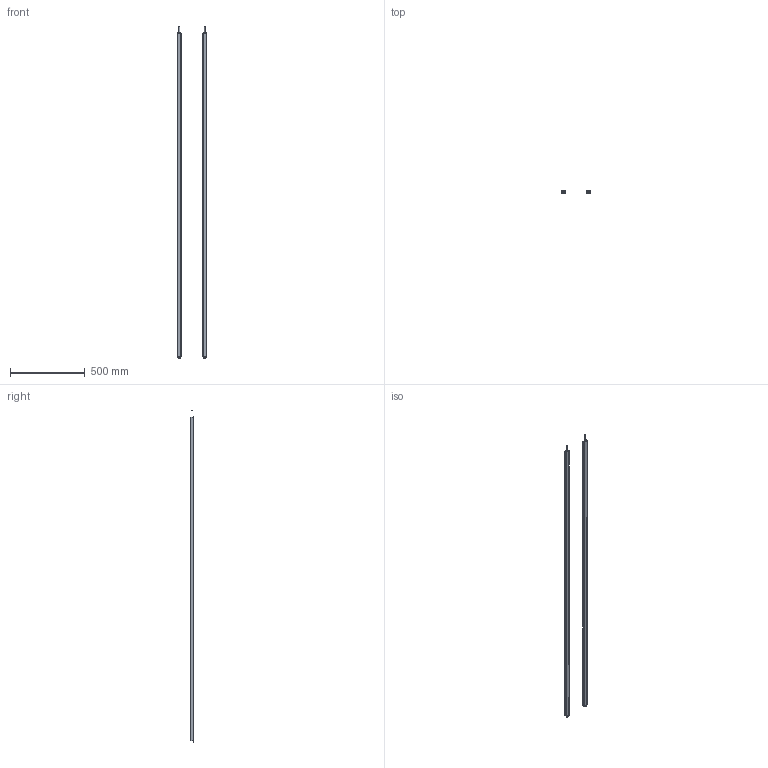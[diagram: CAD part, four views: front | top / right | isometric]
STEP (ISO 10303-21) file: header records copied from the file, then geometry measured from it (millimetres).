
FILE_DESCRIPTION(/* description */ (''),/* implementation_level */ '2;1');
FILE_NAME(/* name */ '5440（16X30ZW).stp',/* time_stamp */ '2023-10-23T11:07:24+08:00',/* author */ (''),/* organization */ (''),/* preprocessor_version */ 'ST-DEVELOPER v16.7',/* originating_system */ 'SIEMENS PLM Software NX 12.0',/* authorisation */ '');
FILE_SCHEMA (('AP203_CONFIGURATION_CONTROLLED_3D_DESIGN_OF_MECHANICAL_PARTS_AND_ASSEMBLIES_MIM_LF { 1 0 10303 403 2 1 2}'));
Length unit declared in the file: millimetre
Products named in the file (1): 4840（16X30ZW__stp
Bounding box: 200 x 16 x 2221.5 mm (x, y, z)
Volume: 614109.8 mm3; surface area: 904272.1 mm2
Topology: 10 solids, 10 shells, 296 faces, 830 edges, 554 vertices
Faces by surface type: plane 160, cylinder 136
Full cylindrical faces by diameter (mm): 5 x2
Entity records: 9825 total; most frequent: DIRECTION 1692, CARTESIAN_POINT 1675, ORIENTED_EDGE 1652, EDGE_CURVE 826, AXIS2_PLACEMENT_3D 569, LINE 554, VECTOR 554, VERTEX_POINT 552
